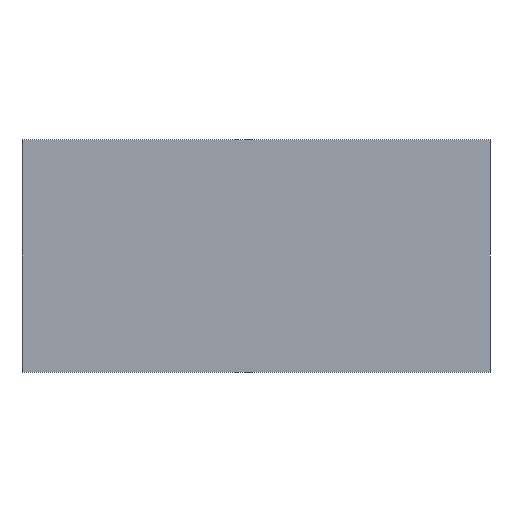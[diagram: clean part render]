
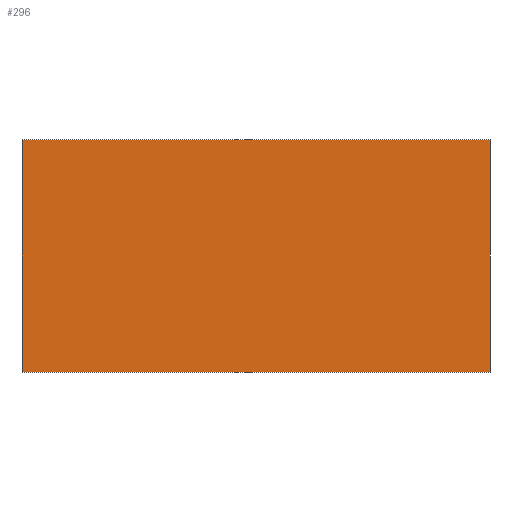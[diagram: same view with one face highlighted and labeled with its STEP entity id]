
A CAD part, front view. The second image highlights one B-rep face of the part: STEP entity #296.
In plain terms, the highlighted planar face has unit normal (0, -1, 0).
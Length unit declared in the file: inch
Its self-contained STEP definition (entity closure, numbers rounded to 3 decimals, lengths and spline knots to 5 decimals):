
#124=FACE_OUTER_BOUND('',#136,.T.);
#136=EDGE_LOOP('',(#251,#252,#253,#254));
#143=LINE('',#506,#167);
#147=LINE('',#514,#171);
#150=LINE('',#520,#174);
#153=LINE('',#525,#177);
#167=VECTOR('',#403,0.3937);
#171=VECTOR('',#409,0.3937);
#174=VECTOR('',#414,0.3937);
#177=VECTOR('',#419,0.3937);
#191=VERTEX_POINT('',#504);
#192=VERTEX_POINT('',#505);
#195=VERTEX_POINT('',#513);
#197=VERTEX_POINT('',#519);
#207=EDGE_CURVE('',#191,#192,#143,.T.);
#211=EDGE_CURVE('',#195,#191,#147,.T.);
#214=EDGE_CURVE('',#197,#195,#150,.T.);
#217=EDGE_CURVE('',#192,#197,#153,.T.);
#251=ORIENTED_EDGE('',*,*,#217,.F.);
#252=ORIENTED_EDGE('',*,*,#207,.F.);
#253=ORIENTED_EDGE('',*,*,#211,.F.);
#254=ORIENTED_EDGE('',*,*,#214,.F.);
#284=PLANE('',#364);
#296=ADVANCED_FACE('',(#124),#284,.F.);
#364=AXIS2_PLACEMENT_3D('',#528,#423,#424);
#403=DIRECTION('',(0.,0.,-1.));
#409=DIRECTION('',(1.,0.,0.));
#414=DIRECTION('',(0.,0.,1.));
#419=DIRECTION('',(-1.,0.,0.));
#423=DIRECTION('center_axis',(0.,1.,0.));
#424=DIRECTION('ref_axis',(0.,0.,1.));
#504=CARTESIAN_POINT('',(23.875,0.,11.875));
#505=CARTESIAN_POINT('',(23.875,0.,-11.875));
#506=CARTESIAN_POINT('',(23.875,0.,11.875));
#513=CARTESIAN_POINT('',(-23.875,0.,11.875));
#514=CARTESIAN_POINT('',(-23.875,0.,11.875));
#519=CARTESIAN_POINT('',(-23.875,0.,-11.875));
#520=CARTESIAN_POINT('',(-23.875,0.,-11.875));
#525=CARTESIAN_POINT('',(23.875,0.,-11.875));
#528=CARTESIAN_POINT('Origin',(0.,0.,0.));
